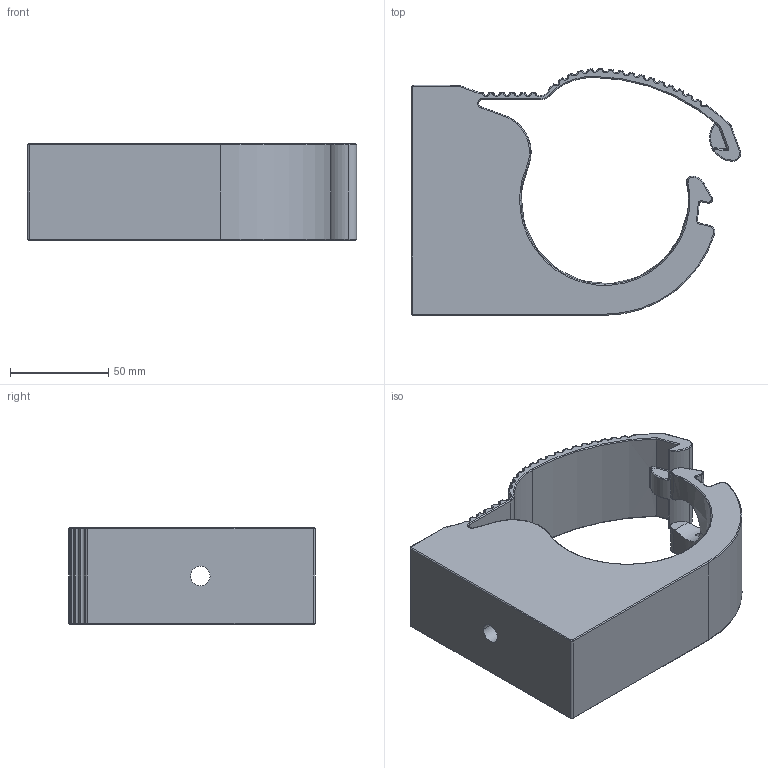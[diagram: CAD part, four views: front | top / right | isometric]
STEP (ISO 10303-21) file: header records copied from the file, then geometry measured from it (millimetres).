
FILE_DESCRIPTION((''),'2;1');
FILE_NAME('AU15702200','2017-05-16T',('Administrator'),(''),'PRO/ENGINEER BY PARAMETRIC TECHNOLOGY CORPORATION, 2009360','PRO/ENGINEER BY PARAMETRIC TECHNOLOGY CORPORATION, 2009360','');
FILE_SCHEMA(('AUTOMOTIVE_DESIGN_CC2 { 1 2 10303 214 -1 1 5 2 }'));
Length unit declared in the file: millimetre
Products named in the file (1): AU15702200
Bounding box: 167.28 x 125.25 x 48.9 mm (x, y, z)
Volume: 435896.8 mm3; surface area: 65645.8 mm2
Topology: 1 solids, 1 shells, 293 faces, 789 edges, 495 vertices
Faces by surface type: torus 122, cylinder 115, plane 36, bspline 16, revolution 2, cone 2
Entity records: 12988 total; most frequent: CARTESIAN_POINT 3304, DIRECTION 1579, ORIENTED_EDGE 1570, PRESENTATION_STYLE_ASSIGNMENT 786, STYLED_ITEM 786, CURVE_STYLE 785, EDGE_CURVE 785, AXIS2_PLACEMENT_3D 687
